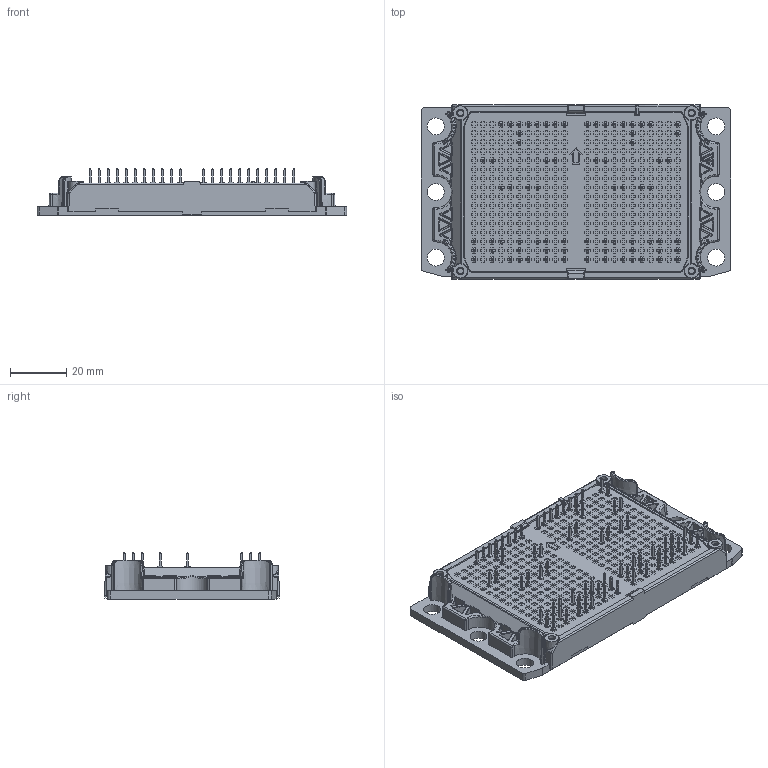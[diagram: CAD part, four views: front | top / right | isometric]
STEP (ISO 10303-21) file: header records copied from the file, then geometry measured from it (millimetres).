
FILE_DESCRIPTION(/* description */ ('Unknown'),/* implementation_level */ '2;1');
FILE_NAME(/* name */ 'FlowE3BP-4T12Z-PM10(761)-03-OL',/* time_stamp */ '2026-02-03T16:48:19+01:00',/* author */ ('Unknown'),/* organization */ ('Unknown'),/* preprocessor_version */ 'ST-DEVELOPER v20',/* originating_system */ 'Solid Edge',/* authorisation */ 'Unknown');
FILE_SCHEMA (('AUTOMOTIVE_DESIGN {1 0 10303 214 3 1 1}'));
Products named in the file (1): FlowE3BP-4T12Z-PM10-OL
Bounding box: 109.6 x 61.99 x 16.45 mm (x, y, z)
Volume: 58784.8 mm3; surface area: 38568 mm2
Topology: 1 solids, 1 shells, 9018 faces, 25886 edges, 17080 vertices
Faces by surface type: plane 7331, cylinder 1040, bspline 308, cone 243, torus 68, sphere 28
Full cylindrical faces by diameter (mm): 2.6 x4, 3 x4, 6 x6
Entity records: 361505 total; most frequent: CARTESIAN_POINT 62584, ORIENTED_EDGE 51648, DIRECTION 45331, EDGE_CURVE 25824, LINE 20465, VECTOR 20465, VERTEX_POINT 17064, AXIS2_PLACEMENT_3D 12433
